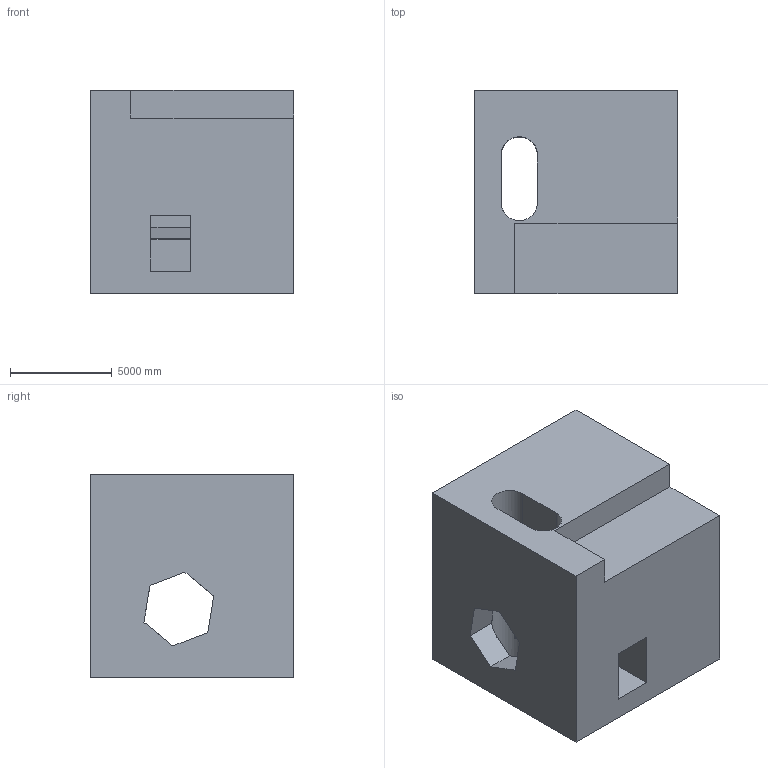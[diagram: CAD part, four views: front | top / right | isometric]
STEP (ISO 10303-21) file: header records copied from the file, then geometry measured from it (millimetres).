
FILE_DESCRIPTION (( 'STEP AP203' ), '1' );
FILE_NAME ('338.STEP', '2022-07-28T14:23:56', ( 'user' ), ( '' ), 'SwSTEP 2.0', 'SolidWorks 2021', '' );
FILE_SCHEMA (( 'CONFIG_CONTROL_DESIGN' ));
Length unit declared in the file: centimetre
Products named in the file (1): 338
Bounding box: 10000 x 10000 x 10000 mm (x, y, z)
Volume: 795741522300.8 mm3; surface area: 777385247.9 mm2
Topology: 1 solids, 1 shells, 35 faces, 108 edges, 72 vertices
Faces by surface type: plane 33, cylinder 2
Entity records: 1282 total; most frequent: CARTESIAN_POINT 252, ORIENTED_EDGE 216, DIRECTION 175, EDGE_CURVE 108, LINE 89, VECTOR 89, VERTEX_POINT 72, AXIS2_PLACEMENT_3D 43
